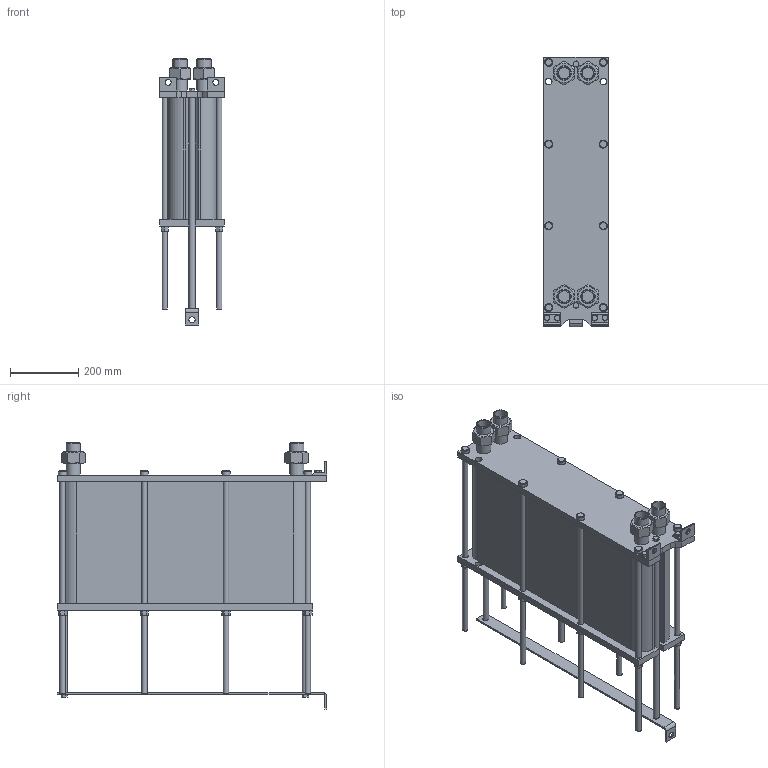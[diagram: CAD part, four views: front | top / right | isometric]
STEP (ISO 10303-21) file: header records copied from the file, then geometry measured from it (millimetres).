
FILE_DESCRIPTION(/* description */ (''),/* implementation_level */ '2;1');
FILE_NAME(/* name */ 'C:\Users\zhuro\Desktop\ENCO\TO\ЭН-008\ЭН-0,5-008-115-1.stp',/* time_stamp */ '2022-06-06T10:56:21+03:00',/* author */ ('zhuro'),/* organization */ (''),/* preprocessor_version */ 'ST-DEVELOPER v18.1',/* originating_system */ 'Autodesk Inventor 2022',/* authorisation */ '');
FILE_SCHEMA (('AUTOMOTIVE_DESIGN { 1 0 10303 214 3 1 1 }'));
Length unit declared in the file: millimetre
Products named in the file (1): ЭН-0,5-008-115-1
Bounding box: 190 x 790 x 781 mm (x, y, z)
Volume: 43374379.2 mm3; surface area: 2148407.3 mm2
Topology: 40 solids, 40 shells, 428 faces, 924 edges, 606 vertices
Faces by surface type: plane 273, cylinder 109, cone 40, torus 6
Full cylindrical faces by diameter (mm): 12 x6, 14 x2, 16 x20, 17 x8, 18 x19, 20 x5, 24 x8, 28 x8, 34.3 x8, 42.3 x8
Entity records: 15843 total; most frequent: CARTESIAN_POINT 5991, DIRECTION 1984, ORIENTED_EDGE 1848, EDGE_CURVE 924, AXIS2_PLACEMENT_3D 715, VERTEX_POINT 606, LINE 554, VECTOR 554
